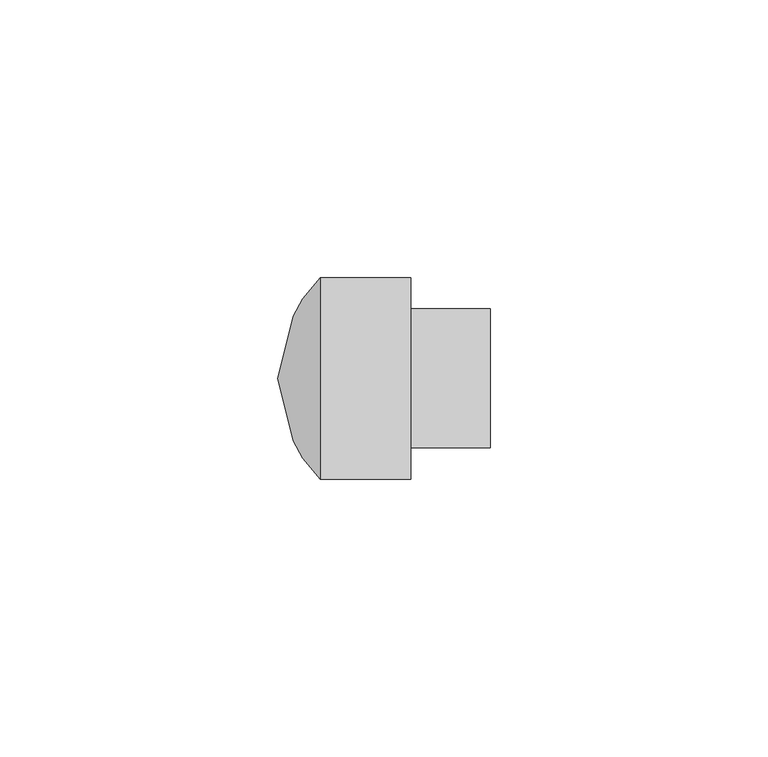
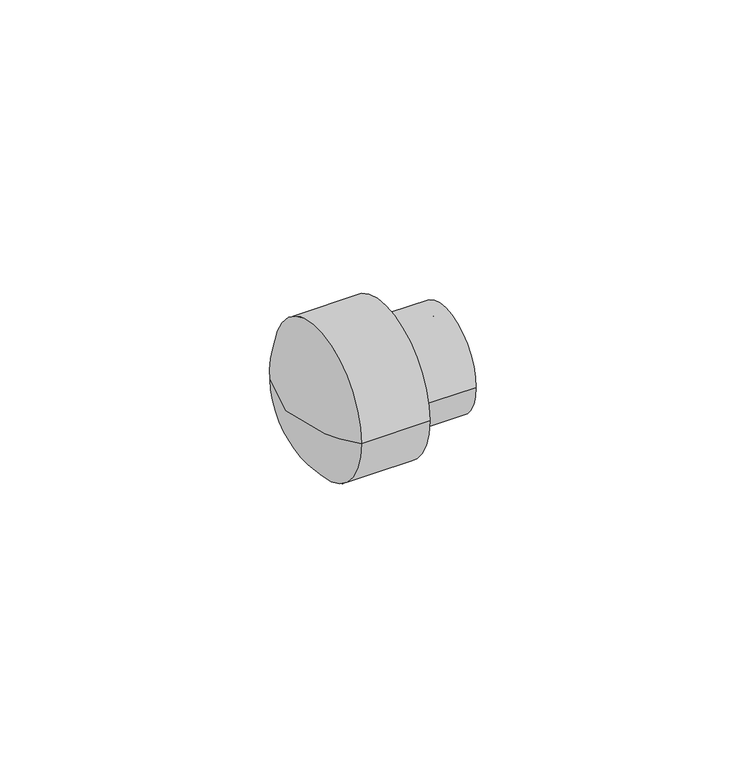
"""IFC4 building model written with IfcOpenShell, lengths in millimetres: pipe fitting geometry, 48_Заглушка PPR коллекторная : Белый цвет."""

from ifc_helpers import new_model, si_unit, point, frame, origin, origin_2d, place, context, project, spatial, circle_curve, trimmed, segment, composite_curve, outline, extrude, source, transform, mapped, element, save
from ifc_brep_helpers import plane_surface, revolved_surface, spline_curve, advanced_brep


def pipe_fitting_20e4d0cf(model_context):
    return source(origin(), model_context, "Body", "SolidModel", [
        advanced_brep(
        [(-30.6, -18.1, 0.0), (-30.6, 18.1, 0.0), (-30.6, 0.0, 0.0), (-38.2, 0.0, 0.0)],
        [
            (0, 1, circle_curve(frame((-30.6, 0.0, 0.0), z_axis=(1.0, 0.0, 0.0), x_axis=(0.0, 1.0, 0.0)), 18.1)),
            (1, 2),
            (2, 0),
            (1, 0, circle_curve(frame((-30.6, 0.0, 0.0), z_axis=(1.0, 0.0, 0.0), x_axis=(0.0, 1.0, 0.0)), 18.1)),
            (3, 1, spline_curve(3, [(-38.2, 0.0, 0.0), (-36.958147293, 6.160622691, 0.0), (-36.425139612, 8.804784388, 0.0), (-34.582854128, 13.324498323, 0.0), (-33.39432561, 15.255871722, 0.0), (-30.6, 18.1, 0.0)], [4, 2, 4], [0.0, 0.13814713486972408, 0.25671142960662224])),
            (0, 3, spline_curve(3, [(-30.6, -18.1, 0.0), (-33.39432561, -15.255871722, 0.0), (-34.582854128, -13.324498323, 0.0), (-36.425139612, -8.804784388, 0.0), (-36.958147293, -6.160622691, 0.0), (-38.2, 0.0, 0.0)], [4, 2, 4], [0.0, 0.11856429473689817, 0.25671142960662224])),
        ],
        [
            plane_surface(frame((-30.6, 0.0, 0.0), z_axis=(1.0, 0.0, 0.0), x_axis=(0.0, 1.0, 0.0))),
            revolved_surface(spline_curve(3, [(-30.6, 18.1, 0.0), (-33.39432561, 15.255871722, 0.0), (-34.582854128, 13.324498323, 0.0), (-36.425139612, 8.804784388, 0.0), (-36.958147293, 6.160622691, 0.0), (-38.2, 0.0, 0.0)], [4, 2, 4], [0.0, 0.11856429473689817, 0.25671142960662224]), (-68.2, 0.0, 0.0), (-1.0, 0.0, 0.0)),
        ],
        [
            (0, [[1, 2, 3]]),
            (0, [[4, -3, -2]]),
            (1, [[5, -1, 6]]),
            (1, [[-6, -4, -5]]),
        ],
    ),
        extrude(outline(composite_curve([segment(trimmed(circle_curve(origin_2d(), 12.5), [point((-12.5, 0.0))], [point((12.5, 0.0))], False, "CARTESIAN"), True, "CONTINUOUS"), segment(trimmed(circle_curve(origin_2d(), 12.5), [point((12.5, 0.0))], [point((-12.5, 0.0))], False, "CARTESIAN"), True, "CONTINUOUS")], self_intersect=False), holes=[composite_curve([segment(trimmed(circle_curve(origin_2d(), 8.85), [point((-8.85, 0.0))], [point((8.85, 0.0))], True, "CARTESIAN"), True, "CONTINUOUS"), segment(trimmed(circle_curve(origin_2d(), 8.85), [point((8.85, 0.0))], [point((-8.85, 0.0))], True, "CARTESIAN"), True, "CONTINUOUS")], self_intersect=False)]), frame((-14.3, 0.0, 0.0), z_axis=(1.0, 0.0, 0.0), x_axis=(0.0, 1.0, 0.0)), (0.0, 0.0, 1.0), 14.3),
        extrude(outline(composite_curve([segment(trimmed(circle_curve(origin_2d(), 18.1), [point((-18.1, 0.0))], [point((18.1, 0.0))], False, "CARTESIAN"), True, "CONTINUOUS"), segment(trimmed(circle_curve(origin_2d(), 18.1), [point((18.1, 0.0))], [point((-18.1, 0.0))], False, "CARTESIAN"), True, "CONTINUOUS")], self_intersect=False), holes=[composite_curve([segment(trimmed(circle_curve(origin_2d(), 8.85), [point((-8.85, 0.0))], [point((8.85, 0.0))], True, "CARTESIAN"), True, "CONTINUOUS"), segment(trimmed(circle_curve(origin_2d(), 8.85), [point((8.85, 0.0))], [point((-8.85, 0.0))], True, "CARTESIAN"), True, "CONTINUOUS")], self_intersect=False)]), frame((-30.6, 0.0, 0.0), z_axis=(1.0, 0.0, 0.0), x_axis=(0.0, 1.0, 0.0)), (0.0, 0.0, 1.0), 16.3),
    ])


if __name__ == "__main__":
    model = new_model("IFC4")
    model_context = context("Model", 3, world=origin())
    ifc_project = project(units=[si_unit("LENGTHUNIT", "METRE", prefix="MILLI")], contexts=[model_context])
    site = spatial("IfcSite", under=ifc_project)
    building = spatial("IfcBuilding", under=site)
    placement = place(None, origin())
    pipe_fitting_shape = pipe_fitting_20e4d0cf(model_context)
    element("IfcPipeFitting", 1, ObjectType="48_Заглушка PPR коллекторная : Белый цвет", at=placement, inside=building, context=model_context, shape_type="MappedRepresentation", body=[
        mapped(pipe_fitting_shape, transform((0.0, 0.0, 0.0), x_axis=(1.0, 0.0, 0.0), y_axis=(0.0, 1.0, 0.0), z_axis=(0.0, 0.0, 1.0))),
    ])
    save(model, "model.ifc")
